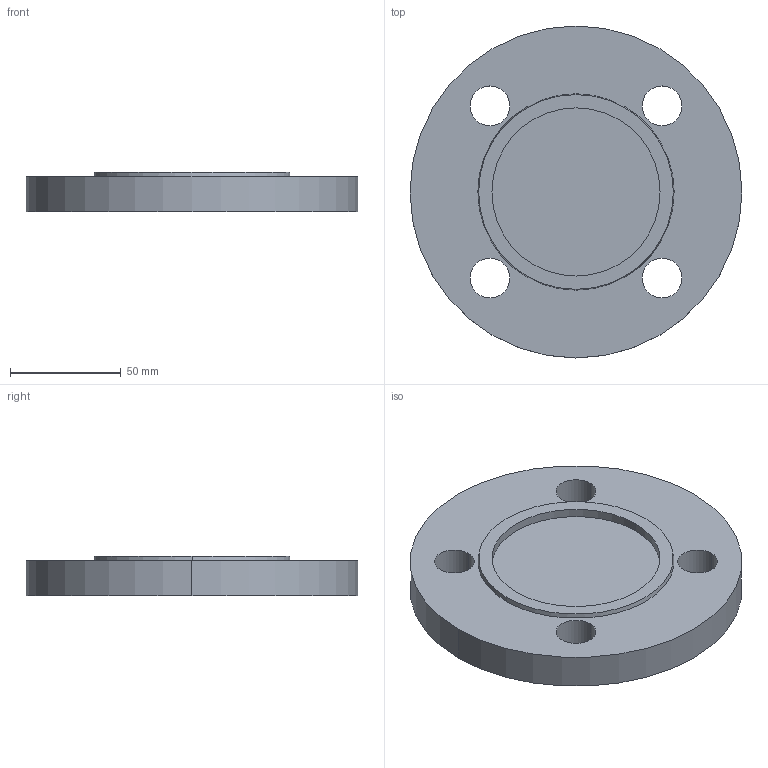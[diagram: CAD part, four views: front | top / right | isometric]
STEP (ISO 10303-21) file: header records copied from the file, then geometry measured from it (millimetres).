
FILE_DESCRIPTION (( 'STEP AP214' ), '1' );
FILE_NAME ('PN40 DN40 Type 05 - Type F Face.STEP', '2018-12-30T02:26:03', ( '' ), ( '' ), 'SwSTEP 2.0', 'SolidWorks 2019', '' );
FILE_SCHEMA (( 'AUTOMOTIVE_DESIGN' ));
Length unit declared in the file: millimetre
Products named in the file (1): PN40 DN40 Type 05 - Type F Face
Bounding box: 150 x 150 x 18 mm (x, y, z)
Volume: 260573.5 mm3; surface area: 45887 mm2
Topology: 1 solids, 1 shells, 18 faces, 42 edges, 28 vertices
Faces by surface type: cylinder 12, plane 4, cone 2
Entity records: 584 total; most frequent: DIRECTION 108, CARTESIAN_POINT 89, ORIENTED_EDGE 84, AXIS2_PLACEMENT_3D 47, EDGE_CURVE 42, CIRCLE 28, EDGE_LOOP 28, VERTEX_POINT 28
